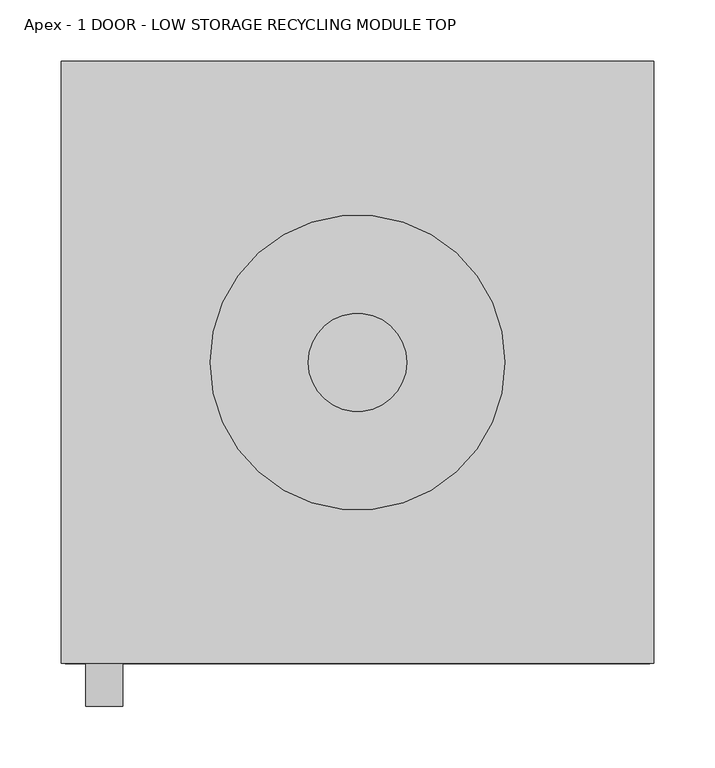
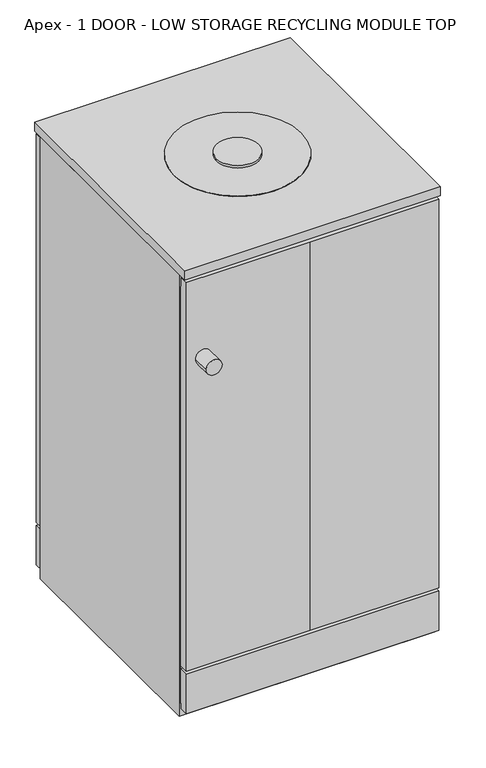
"""IFC4 building model written with IfcOpenShell, lengths in millimetres: furniture geometry, Apex - 1 DOOR - LOW STORAGE RECYCLING MODULE TOP : APEX-SW-18-RCFP1 1DR 500mm(w) x 490mm(d) x 900mm(h)."""

from ifc_helpers import new_model, si_unit, point, frame, frame_2d, origin, place, context, project, spatial, polyline, circle_curve, trimmed, segment, composite_curve, outline, extrude, source, transform, mapped, element, save


def apex_1_door_low_storage_recycling_module_top_865ce31f(model_context):
    return source(origin(), model_context, "Body", "SweptSolid", [
        extrude(outline(composite_curve([segment(trimmed(circle_curve(frame_2d((241.0, -245.0)), 40.0), [point((201.0, -245.0))], [point((281.0, -245.0))], False, "CARTESIAN"), True, "CONTINUOUS"), segment(trimmed(circle_curve(frame_2d((241.0, -245.0)), 40.0), [point((281.0, -245.0))], [point((201.0, -245.0))], False, "CARTESIAN"), True, "CONTINUOUS")], self_intersect=False)), frame((0.0, 0.0, 900.9881138), z_axis=(0.0, 0.0, 1.0), x_axis=(1.0, 0.0, 0.0)), (0.0, 0.0, 1.0), 4.970957),
        extrude(outline(composite_curve([segment(trimmed(circle_curve(frame_2d((241.0, -245.0)), 120.0), [point((121.0, -245.0))], [point((361.0, -245.0))], False, "CARTESIAN"), True, "CONTINUOUS"), segment(trimmed(circle_curve(frame_2d((241.0, -245.0)), 120.0), [point((361.0, -245.0))], [point((121.0, -245.0))], False, "CARTESIAN"), True, "CONTINUOUS")], self_intersect=False)), frame((0.0, 0.0, 900.0), z_axis=(0.0, 0.0, 1.0), x_axis=(1.0, 0.0, 0.0)), (0.0, 0.0, 1.0), 0.9881138),
        extrude(outline(polyline([(482.0, -490.0), (0.0, -490.0), (0.0, 0.0), (482.0, 0.0), (482.0, -490.0)])), frame((0.0, 0.0, 882.0), z_axis=(0.0, 0.0, 1.0), x_axis=(1.0, 0.0, 0.0)), (0.0, 0.0, 1.0), 18.0),
        extrude(outline(composite_curve([segment(trimmed(circle_curve(frame_2d((717.0, 35.0)), 15.0), [point((717.0, 20.0))], [point((717.0, 50.0))], False, "CARTESIAN"), True, "CONTINUOUS"), segment(trimmed(circle_curve(frame_2d((717.0, 35.0)), 15.0), [point((717.0, 50.0))], [point((717.0, 20.0))], False, "CARTESIAN"), True, "CONTINUOUS")], self_intersect=False)), frame((0.0, -525.0, 0.0), z_axis=(0.0, 1.0, 0.0), x_axis=(0.0, 0.0, 1.0)), (0.0, 0.0, 1.0), 35.0),
        extrude(outline(polyline([(882.0, 482.0), (882.0, 0.0), (0.0, 0.0), (0.0, 482.0), (882.0, 482.0)]), holes=[polyline([(25.0, 479.0), (25.0, 3.0), (857.0, 3.0), (857.0, 479.0), (25.0, 479.0)])]), frame((0.0, -472.0, 0.0), z_axis=(0.0, 1.0, 0.0), x_axis=(0.0, 0.0, 1.0)), (0.0, 0.0, 1.0), 454.0),
        extrude(outline(polyline([(236.0, -472.0), (479.0, -472.0), (479.0, -490.0), (236.0, -490.0), (3.0, -490.0), (3.0, -472.0), (236.0, -472.0)])), frame((0.0, 0.0, 100.0), z_axis=(0.0, 0.0, 1.0), x_axis=(1.0, 0.0, 0.0)), (0.0, 0.0, 1.0), 776.0),
        extrude(outline(polyline([(479.0, 0.0), (479.0, -18.0), (3.0, -18.0), (3.0, 0.0), (479.0, 0.0)])), frame((0.0, 0.0, 100.0), z_axis=(0.0, 0.0, 1.0), x_axis=(1.0, 0.0, 0.0)), (0.0, 0.0, 1.0), 776.0),
        extrude(outline(polyline([(479.0, -18.0), (3.0, -18.0), (3.0, 0.0), (479.0, 0.0), (479.0, -18.0)])), frame((0.0, 0.0, 15.0), z_axis=(0.0, 0.0, 1.0), x_axis=(1.0, 0.0, 0.0)), (0.0, 0.0, 1.0), 79.0),
        extrude(outline(polyline([(479.0, -490.0), (3.0, -490.0), (3.0, -472.0), (479.0, -472.0), (479.0, -490.0)])), frame((0.0, 0.0, 15.0), z_axis=(0.0, 0.0, 1.0), x_axis=(1.0, 0.0, 0.0)), (0.0, 0.0, 1.0), 79.0),
    ])


if __name__ == "__main__":
    model = new_model("IFC4")
    model_context = context("Model", 3, world=origin())
    ifc_project = project(units=[si_unit("LENGTHUNIT", "METRE", prefix="MILLI")], contexts=[model_context])
    site = spatial("IfcSite", under=ifc_project)
    building = spatial("IfcBuilding", under=site)
    placement = place(None, origin())
    apex_1_door_low_storage_recycling_module_top_shape = apex_1_door_low_storage_recycling_module_top_865ce31f(model_context)
    element("IfcFurniture", 1, ObjectType="Apex - 1 DOOR - LOW STORAGE RECYCLING MODULE TOP : APEX-SW-18-RCFP1 1DR 500mm(w) x 490mm(d) x 900mm(h)", at=placement, inside=building, context=model_context, shape_type="MappedRepresentation", body=[
        mapped(apex_1_door_low_storage_recycling_module_top_shape, transform((0.0, 0.0, 0.0), x_axis=(1.0, 0.0, 0.0), y_axis=(0.0, 1.0, 0.0), z_axis=(0.0, 0.0, 1.0))),
    ])
    save(model, "model.ifc")
